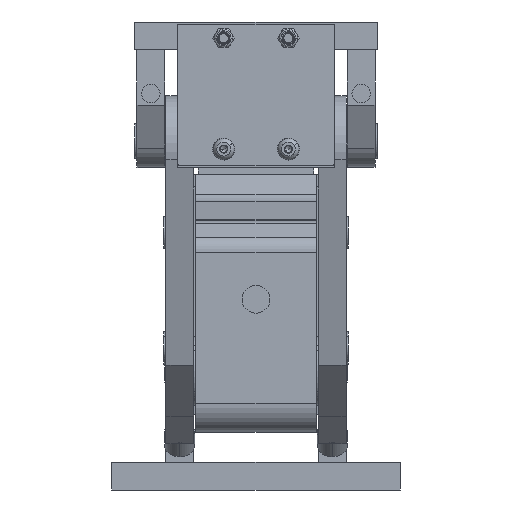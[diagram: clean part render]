
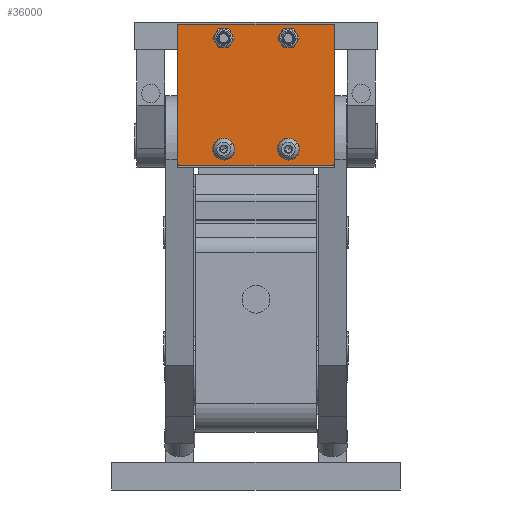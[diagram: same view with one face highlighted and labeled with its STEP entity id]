
A CAD part, left-side view. The second image highlights one B-rep face of the part: STEP entity #36000.
In plain terms, the highlighted planar face has unit normal (-1, 0, 0) as drawn and (0, 0, 1) by its records, which use the part's own axes.
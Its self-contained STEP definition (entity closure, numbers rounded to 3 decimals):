
#740 = ORIENTED_EDGE ( 'NONE', *, *, #37167, .F. ) ;
#1479 = ORIENTED_EDGE ( 'NONE', *, *, #38548, .T. ) ;
#2354 = EDGE_CURVE ( 'NONE', #36359, #5371, #37640, .T. ) ;
#2560 = LINE ( 'NONE', #31984, #61561 ) ;
#2781 = VECTOR ( 'NONE', #32334, 1000. ) ;
#2945 = LINE ( 'NONE', #61492, #2781 ) ;
#3308 = AXIS2_PLACEMENT_3D ( 'NONE', #16894, #33088, #62256 ) ;
#3395 = CIRCLE ( 'NONE', #11639, 1. ) ;
#3457 = CARTESIAN_POINT ( 'NONE',  ( 14., 56., 32. ) ) ;
#3767 = DIRECTION ( 'NONE',  ( 0., -1., 0. ) ) ;
#3931 = DIRECTION ( 'NONE',  ( 1., 0., 0. ) ) ;
#3971 = EDGE_LOOP ( 'NONE', ( #740, #19039 ) ) ;
#4576 = AXIS2_PLACEMENT_3D ( 'NONE', #29479, #49200, #4933 ) ;
#4693 = ORIENTED_EDGE ( 'NONE', *, *, #5297, .T. ) ;
#4893 = CARTESIAN_POINT ( 'NONE',  ( 34., 61., 32. ) ) ;
#4933 = DIRECTION ( 'NONE',  ( 1., 0., 0. ) ) ;
#5297 = EDGE_CURVE ( 'NONE', #18688, #42143, #2560, .T. ) ;
#5371 = VERTEX_POINT ( 'NONE', #45907 ) ;
#5416 = VERTEX_POINT ( 'NONE', #63699 ) ;
#5421 = DIRECTION ( 'NONE',  ( 1., 0., 0. ) ) ;
#5502 = AXIS2_PLACEMENT_3D ( 'NONE', #28871, #33682, #34320 ) ;
#6729 = DIRECTION ( 'NONE',  ( 1., 0., 0. ) ) ;
#7012 = DIRECTION ( 'NONE',  ( -1., 0., 0. ) ) ;
#9006 = DIRECTION ( 'NONE',  ( 0., 0., 1. ) ) ;
#9690 = DIRECTION ( 'NONE',  ( 1., 0., 0. ) ) ;
#9946 = CARTESIAN_POINT ( 'NONE',  ( 14., 8., 32. ) ) ;
#10259 = CARTESIAN_POINT ( 'NONE',  ( 33., 62., 32. ) ) ;
#10568 = CARTESIAN_POINT ( 'NONE',  ( -34., 2., 32. ) ) ;
#11639 = AXIS2_PLACEMENT_3D ( 'NONE', #14297, #28533, #43413 ) ;
#12640 = CARTESIAN_POINT ( 'NONE',  ( -33., 62., 32. ) ) ;
#12902 = AXIS2_PLACEMENT_3D ( 'NONE', #53403, #28802, #3931 ) ;
#14071 = EDGE_CURVE ( 'NONE', #36808, #35182, #33888, .T. ) ;
#14297 = CARTESIAN_POINT ( 'NONE',  ( 33., 2., 32. ) ) ;
#14730 = EDGE_CURVE ( 'NONE', #63839, #45115, #52652, .T. ) ;
#14954 = ORIENTED_EDGE ( 'NONE', *, *, #20734, .F. ) ;
#16648 = DIRECTION ( 'NONE',  ( 0., 0., 1. ) ) ;
#16894 = CARTESIAN_POINT ( 'NONE',  ( 14., 56., 32. ) ) ;
#17801 = ORIENTED_EDGE ( 'NONE', *, *, #22883, .F. ) ;
#18157 = FACE_BOUND ( 'NONE', #40351, .T. ) ;
#18688 = VERTEX_POINT ( 'NONE', #36844 ) ;
#18760 = EDGE_CURVE ( 'NONE', #45115, #54437, #2945, .T. ) ;
#19039 = ORIENTED_EDGE ( 'NONE', *, *, #2354, .F. ) ;
#19084 = EDGE_LOOP ( 'NONE', ( #48971, #14954 ) ) ;
#19673 = VECTOR ( 'NONE', #55088, 1000. ) ;
#20734 = EDGE_CURVE ( 'NONE', #52964, #47950, #42319, .T. ) ;
#20998 = AXIS2_PLACEMENT_3D ( 'NONE', #26392, #16648, #51295 ) ;
#21833 = CARTESIAN_POINT ( 'NONE',  ( -11.25, 8., 32. ) ) ;
#22558 = CARTESIAN_POINT ( 'NONE',  ( 11.25, 8., 32. ) ) ;
#22875 = CARTESIAN_POINT ( 'NONE',  ( -14., 56., 32. ) ) ;
#22883 = EDGE_CURVE ( 'NONE', #28283, #5416, #27203, .T. ) ;
#24077 = CARTESIAN_POINT ( 'NONE',  ( -34., 2., 32. ) ) ;
#24672 = CARTESIAN_POINT ( 'NONE',  ( 33., 1., 32. ) ) ;
#25165 = CIRCLE ( 'NONE', #4576, 2.75 ) ;
#26151 = CARTESIAN_POINT ( 'NONE',  ( -33., 2., 32. ) ) ;
#26392 = CARTESIAN_POINT ( 'NONE',  ( -14., 56., 32. ) ) ;
#26498 = DIRECTION ( 'NONE',  ( 0., 1., 0. ) ) ;
#27203 = CIRCLE ( 'NONE', #30317, 2.75 ) ;
#28283 = VERTEX_POINT ( 'NONE', #49075 ) ;
#28533 = DIRECTION ( 'NONE',  ( 0., 0., 1. ) ) ;
#28802 = DIRECTION ( 'NONE',  ( 0., 0., 1. ) ) ;
#28871 = CARTESIAN_POINT ( 'NONE',  ( -33., 61., 32. ) ) ;
#28991 = DIRECTION ( 'NONE',  ( 0., 0., 1. ) ) ;
#29479 = CARTESIAN_POINT ( 'NONE',  ( -14., 8., 32. ) ) ;
#29538 = LINE ( 'NONE', #33113, #19673 ) ;
#30055 = DIRECTION ( 'NONE',  ( 0., 0., 1. ) ) ;
#30317 = AXIS2_PLACEMENT_3D ( 'NONE', #22875, #52679, #33545 ) ;
#30734 = CARTESIAN_POINT ( 'NONE',  ( -16.75, 8., 32. ) ) ;
#31895 = PLANE ( 'NONE',  #47179 ) ;
#31984 = CARTESIAN_POINT ( 'NONE',  ( 34., 61., 32. ) ) ;
#32334 = DIRECTION ( 'NONE',  ( 1., 0., 0. ) ) ;
#32595 = EDGE_CURVE ( 'NONE', #47950, #52964, #59099, .T. ) ;
#32733 = ORIENTED_EDGE ( 'NONE', *, *, #39296, .F. ) ;
#33000 = CARTESIAN_POINT ( 'NONE',  ( 11.25, 56., 32. ) ) ;
#33075 = FACE_OUTER_BOUND ( 'NONE', #49315, .T. ) ;
#33088 = DIRECTION ( 'NONE',  ( 0., 0., 1. ) ) ;
#33113 = CARTESIAN_POINT ( 'NONE',  ( -33., 62., 32. ) ) ;
#33483 = DIRECTION ( 'NONE',  ( 1., 0., 0. ) ) ;
#33545 = DIRECTION ( 'NONE',  ( 1., 0., 0. ) ) ;
#33682 = DIRECTION ( 'NONE',  ( 0., 0., 1. ) ) ;
#33888 = CIRCLE ( 'NONE', #43228, 2.75 ) ;
#34320 = DIRECTION ( 'NONE',  ( -1., 0., 0. ) ) ;
#34371 = CIRCLE ( 'NONE', #5502, 1. ) ;
#35182 = VERTEX_POINT ( 'NONE', #30734 ) ;
#35188 = DIRECTION ( 'NONE',  ( 1., 0., 0. ) ) ;
#36000 = ADVANCED_FACE ( 'NONE', ( #18157, #53491, #48603, #48282, #33075 ), #31895, .F. ) ;
#36046 = ORIENTED_EDGE ( 'NONE', *, *, #45610, .T. ) ;
#36359 = VERTEX_POINT ( 'NONE', #33000 ) ;
#36791 = ORIENTED_EDGE ( 'NONE', *, *, #38603, .T. ) ;
#36808 = VERTEX_POINT ( 'NONE', #21833 ) ;
#36844 = CARTESIAN_POINT ( 'NONE',  ( 34., 2., 32. ) ) ;
#37167 = EDGE_CURVE ( 'NONE', #5371, #36359, #49764, .T. ) ;
#37390 = DIRECTION ( 'NONE',  ( 0., 0., 1. ) ) ;
#37640 = CIRCLE ( 'NONE', #39689, 2.75 ) ;
#38527 = ORIENTED_EDGE ( 'NONE', *, *, #14730, .T. ) ;
#38548 = EDGE_CURVE ( 'NONE', #54437, #18688, #3395, .T. ) ;
#38603 = EDGE_CURVE ( 'NONE', #53879, #49217, #34371, .T. ) ;
#39273 = EDGE_LOOP ( 'NONE', ( #32733, #17801 ) ) ;
#39296 = EDGE_CURVE ( 'NONE', #5416, #28283, #60300, .T. ) ;
#39689 = AXIS2_PLACEMENT_3D ( 'NONE', #3457, #28991, #33483 ) ;
#39717 = CIRCLE ( 'NONE', #12902, 1. ) ;
#39723 = EDGE_CURVE ( 'NONE', #42143, #63768, #39717, .T. ) ;
#39737 = DIRECTION ( 'NONE',  ( 0., 0., 1. ) ) ;
#40351 = EDGE_LOOP ( 'NONE', ( #63560, #62030 ) ) ;
#40908 = CARTESIAN_POINT ( 'NONE',  ( 16.75, 8., 32. ) ) ;
#42143 = VERTEX_POINT ( 'NONE', #4893 ) ;
#42319 = CIRCLE ( 'NONE', #51610, 2.75 ) ;
#42854 = ORIENTED_EDGE ( 'NONE', *, *, #51157, .T. ) ;
#43228 = AXIS2_PLACEMENT_3D ( 'NONE', #62063, #37390, #6729 ) ;
#43413 = DIRECTION ( 'NONE',  ( -1., 0., 0. ) ) ;
#45115 = VERTEX_POINT ( 'NONE', #60401 ) ;
#45610 = EDGE_CURVE ( 'NONE', #63768, #53879, #29538, .T. ) ;
#45907 = CARTESIAN_POINT ( 'NONE',  ( 16.75, 56., 32. ) ) ;
#46101 = VECTOR ( 'NONE', #3767, 1000. ) ;
#46128 = CARTESIAN_POINT ( 'NONE',  ( -34., 61., 32. ) ) ;
#47179 = AXIS2_PLACEMENT_3D ( 'NONE', #57993, #63516, #7012 ) ;
#47950 = VERTEX_POINT ( 'NONE', #40908 ) ;
#48282 = FACE_BOUND ( 'NONE', #3971, .T. ) ;
#48603 = FACE_BOUND ( 'NONE', #39273, .T. ) ;
#48971 = ORIENTED_EDGE ( 'NONE', *, *, #32595, .F. ) ;
#49075 = CARTESIAN_POINT ( 'NONE',  ( -16.75, 56., 32. ) ) ;
#49200 = DIRECTION ( 'NONE',  ( 0., 0., 1. ) ) ;
#49217 = VERTEX_POINT ( 'NONE', #46128 ) ;
#49315 = EDGE_LOOP ( 'NONE', ( #1479, #4693, #59537, #36046, #36791, #42854, #38527, #50900 ) ) ;
#49461 = CARTESIAN_POINT ( 'NONE',  ( 14., 8., 32. ) ) ;
#49764 = CIRCLE ( 'NONE', #3308, 2.75 ) ;
#50558 = AXIS2_PLACEMENT_3D ( 'NONE', #26151, #30055, #35188 ) ;
#50900 = ORIENTED_EDGE ( 'NONE', *, *, #18760, .T. ) ;
#51157 = EDGE_CURVE ( 'NONE', #49217, #63839, #58073, .T. ) ;
#51295 = DIRECTION ( 'NONE',  ( 1., 0., 0. ) ) ;
#51610 = AXIS2_PLACEMENT_3D ( 'NONE', #49461, #39737, #9690 ) ;
#52652 = CIRCLE ( 'NONE', #50558, 1. ) ;
#52679 = DIRECTION ( 'NONE',  ( 0., 0., 1. ) ) ;
#52964 = VERTEX_POINT ( 'NONE', #22558 ) ;
#53403 = CARTESIAN_POINT ( 'NONE',  ( 33., 61., 32. ) ) ;
#53491 = FACE_BOUND ( 'NONE', #19084, .T. ) ;
#53879 = VERTEX_POINT ( 'NONE', #12640 ) ;
#54437 = VERTEX_POINT ( 'NONE', #24672 ) ;
#55088 = DIRECTION ( 'NONE',  ( -1., 0., 0. ) ) ;
#57993 = CARTESIAN_POINT ( 'NONE',  ( 33., 2., 32. ) ) ;
#58073 = LINE ( 'NONE', #24077, #46101 ) ;
#59099 = CIRCLE ( 'NONE', #60125, 2.75 ) ;
#59537 = ORIENTED_EDGE ( 'NONE', *, *, #39723, .T. ) ;
#60125 = AXIS2_PLACEMENT_3D ( 'NONE', #9946, #9006, #5421 ) ;
#60300 = CIRCLE ( 'NONE', #20998, 2.75 ) ;
#60401 = CARTESIAN_POINT ( 'NONE',  ( -33., 1., 32. ) ) ;
#61492 = CARTESIAN_POINT ( 'NONE',  ( -33., 1., 32. ) ) ;
#61561 = VECTOR ( 'NONE', #26498, 1000. ) ;
#62030 = ORIENTED_EDGE ( 'NONE', *, *, #62990, .F. ) ;
#62063 = CARTESIAN_POINT ( 'NONE',  ( -14., 8., 32. ) ) ;
#62256 = DIRECTION ( 'NONE',  ( 1., 0., 0. ) ) ;
#62990 = EDGE_CURVE ( 'NONE', #35182, #36808, #25165, .T. ) ;
#63516 = DIRECTION ( 'NONE',  ( 0., 0., -1. ) ) ;
#63560 = ORIENTED_EDGE ( 'NONE', *, *, #14071, .F. ) ;
#63699 = CARTESIAN_POINT ( 'NONE',  ( -11.25, 56., 32. ) ) ;
#63768 = VERTEX_POINT ( 'NONE', #10259 ) ;
#63839 = VERTEX_POINT ( 'NONE', #10568 ) ;
